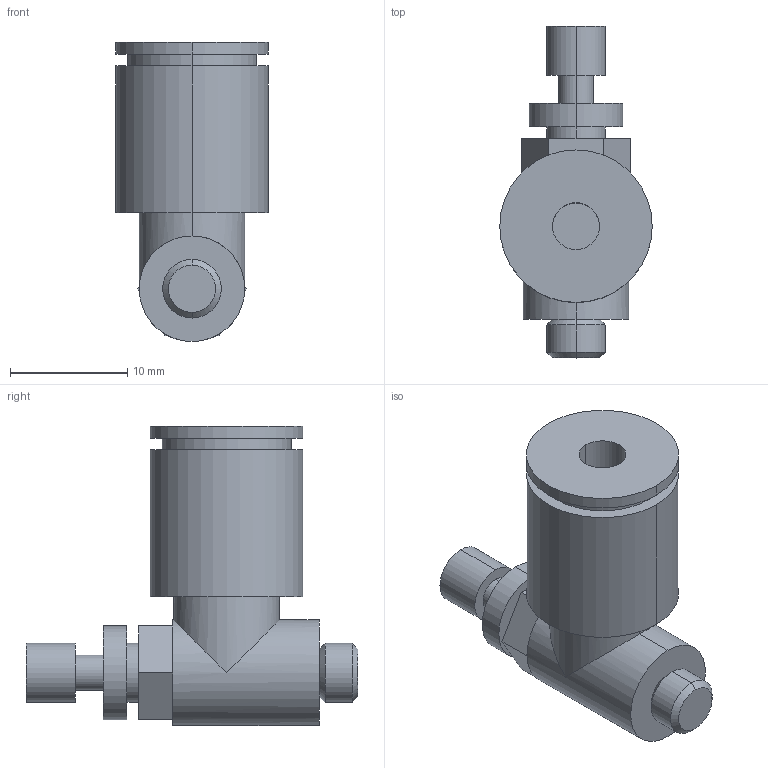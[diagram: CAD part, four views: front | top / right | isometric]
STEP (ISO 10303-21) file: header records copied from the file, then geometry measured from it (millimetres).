
FILE_DESCRIPTION( ( '' ), '1' );
FILE_NAME( 'G:/SMC狟婥/AS1201F-M5-04A.stp', '2023-03-07T03:42:38', ( '' ), ( '' ), ' ', ' ', ' ' );
FILE_SCHEMA( ( 'CONFIG_CONTROL_DESIGN' ) );
Length unit declared in the file: millimetre
Products named in the file (1): 1
Bounding box: 13 x 28.3 x 25.5 mm (x, y, z)
Volume: 3093.2 mm3; surface area: 1944.4 mm2
Topology: 1 solids, 1 shells, 56 faces, 119 edges, 74 vertices
Faces by surface type: plane 30, cylinder 22, cone 4
Entity records: 1561 total; most frequent: DIRECTION 295, CARTESIAN_POINT 250, ORIENTED_EDGE 238, AXIS2_PLACEMENT_3D 119, EDGE_CURVE 119, VERTEX_POINT 74, EDGE_LOOP 65, CIRCLE 58
